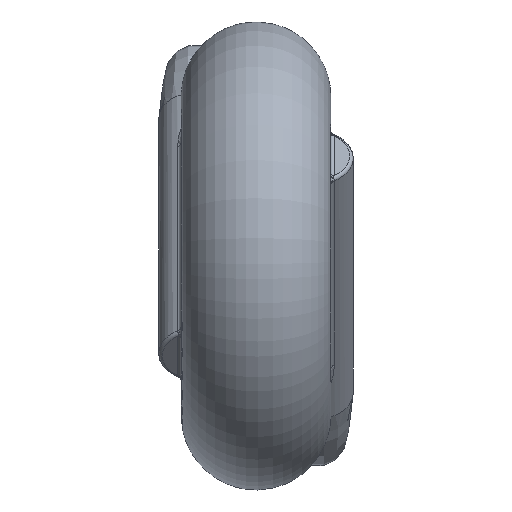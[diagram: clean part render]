
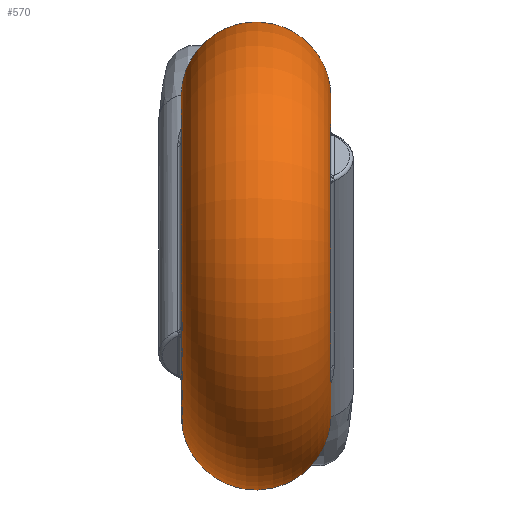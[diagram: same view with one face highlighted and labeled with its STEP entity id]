
A CAD part, left-side view. The second image highlights one B-rep face of the part: STEP entity #570.
In plain terms, the highlighted toroidal (fillet/blend) face has major radius 4.595 mm and minor radius 2.155 mm.
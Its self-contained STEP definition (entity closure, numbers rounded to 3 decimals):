
#20=TOROIDAL_SURFACE('',#632,4.595,2.155);
#81=B_SPLINE_CURVE_WITH_KNOTS('',3,(#1640,#1641,#1642,#1643,#1644,#1645,
#1646,#1647,#1648,#1649,#1650,#1651,#1652,#1653,#1654,#1655),
 .UNSPECIFIED.,.F.,.F.,(4,1,1,1,1,1,1,1,1,1,1,1,1,4),(-0.801,
-0.744,-0.687,-0.572,-0.515,
-0.458,-0.401,-0.343,-0.286,
-0.229,-0.172,-0.114,-0.057,
0.),.UNSPECIFIED.);
#82=B_SPLINE_CURVE_WITH_KNOTS('',3,(#1661,#1662,#1663,#1664,#1665,#1666,
#1667,#1668,#1669,#1670,#1671,#1672,#1673,#1674,#1675,#1676,#1677,#1678),
 .UNSPECIFIED.,.F.,.F.,(4,1,1,1,1,1,1,1,1,1,1,1,1,1,1,4),(-0.801,
-0.744,-0.687,-0.601,-0.572,
-0.515,-0.458,-0.401,-0.343,
-0.329,-0.286,-0.229,-0.172,
-0.114,-0.057,0.),.UNSPECIFIED.);
#97=FACE_BOUND('',#171,.T.);
#129=FACE_OUTER_BOUND('',#170,.T.);
#170=EDGE_LOOP('',(#453,#454));
#171=EDGE_LOOP('',(#455,#456));
#215=CIRCLE('',#633,4.595);
#216=CIRCLE('',#634,4.595);
#259=VERTEX_POINT('',#1555);
#260=VERTEX_POINT('',#1638);
#261=VERTEX_POINT('',#1659);
#262=VERTEX_POINT('',#1660);
#330=EDGE_CURVE('',#260,#259,#81,.T.);
#332=EDGE_CURVE('',#261,#262,#82,.T.);
#333=EDGE_CURVE('',#261,#262,#215,.T.);
#334=EDGE_CURVE('',#260,#259,#216,.T.);
#453=ORIENTED_EDGE('',*,*,#332,.T.);
#454=ORIENTED_EDGE('',*,*,#333,.F.);
#455=ORIENTED_EDGE('',*,*,#330,.T.);
#456=ORIENTED_EDGE('',*,*,#334,.F.);
#570=ADVANCED_FACE('',(#129,#97),#20,.T.);
#632=AXIS2_PLACEMENT_3D('',#1658,#759,#760);
#633=AXIS2_PLACEMENT_3D('',#1679,#761,#762);
#634=AXIS2_PLACEMENT_3D('',#1680,#763,#764);
#759=DIRECTION('center_axis',(0.,1.,0.));
#760=DIRECTION('ref_axis',(1.,0.,0.));
#761=DIRECTION('center_axis',(0.,-1.,0.));
#762=DIRECTION('ref_axis',(-1.,0.,0.));
#763=DIRECTION('center_axis',(0.,1.,0.));
#764=DIRECTION('ref_axis',(-1.,0.,0.));
#1555=CARTESIAN_POINT('',(3.226,3.5,3.273));
#1638=CARTESIAN_POINT('',(4.393,3.5,1.346));
#1640=CARTESIAN_POINT('Ctrl Pts',(4.393,3.5,1.346));
#1641=CARTESIAN_POINT('Ctrl Pts',(4.514,3.5,1.477));
#1642=CARTESIAN_POINT('Ctrl Pts',(4.772,3.465,1.722));
#1643=CARTESIAN_POINT('Ctrl Pts',(5.305,3.244,2.127));
#1644=CARTESIAN_POINT('Ctrl Pts',(5.742,2.788,2.485));
#1645=CARTESIAN_POINT('Ctrl Pts',(5.856,2.259,2.966));
#1646=CARTESIAN_POINT('Ctrl Pts',(5.753,1.929,3.398));
#1647=CARTESIAN_POINT('Ctrl Pts',(5.487,1.768,3.873));
#1648=CARTESIAN_POINT('Ctrl Pts',(5.129,1.841,4.313));
#1649=CARTESIAN_POINT('Ctrl Pts',(4.75,2.146,4.601));
#1650=CARTESIAN_POINT('Ctrl Pts',(4.41,2.576,4.624));
#1651=CARTESIAN_POINT('Ctrl Pts',(4.125,2.972,4.413));
#1652=CARTESIAN_POINT('Ctrl Pts',(3.86,3.271,4.067));
#1653=CARTESIAN_POINT('Ctrl Pts',(3.576,3.457,3.662));
#1654=CARTESIAN_POINT('Ctrl Pts',(3.349,3.5,3.396));
#1655=CARTESIAN_POINT('Ctrl Pts',(3.226,3.5,3.273));
#1658=CARTESIAN_POINT('Origin',(0.,1.345,0.));
#1659=CARTESIAN_POINT('',(4.393,-0.81,-1.346));
#1660=CARTESIAN_POINT('',(3.226,-0.81,-3.273));
#1661=CARTESIAN_POINT('Ctrl Pts',(4.393,-0.81,-1.346));
#1662=CARTESIAN_POINT('Ctrl Pts',(4.514,-0.81,-1.477));
#1663=CARTESIAN_POINT('Ctrl Pts',(4.772,-0.776,-1.721));
#1664=CARTESIAN_POINT('Ctrl Pts',(5.238,-0.581,-2.077));
#1665=CARTESIAN_POINT('Ctrl Pts',(5.578,-0.271,-2.35));
#1666=CARTESIAN_POINT('Ctrl Pts',(5.784,0.102,-2.665));
#1667=CARTESIAN_POINT('Ctrl Pts',(5.856,0.43,-2.965));
#1668=CARTESIAN_POINT('Ctrl Pts',(5.752,0.761,-3.398));
#1669=CARTESIAN_POINT('Ctrl Pts',(5.487,0.922,-3.873));
#1670=CARTESIAN_POINT('Ctrl Pts',(5.218,0.867,-4.203));
#1671=CARTESIAN_POINT('Ctrl Pts',(4.971,0.722,-4.433));
#1672=CARTESIAN_POINT('Ctrl Pts',(4.722,0.507,-4.603));
#1673=CARTESIAN_POINT('Ctrl Pts',(4.41,0.114,-4.624));
#1674=CARTESIAN_POINT('Ctrl Pts',(4.124,-0.283,-4.412));
#1675=CARTESIAN_POINT('Ctrl Pts',(3.86,-0.581,-4.067));
#1676=CARTESIAN_POINT('Ctrl Pts',(3.576,-0.767,-3.662));
#1677=CARTESIAN_POINT('Ctrl Pts',(3.349,-0.81,-3.396));
#1678=CARTESIAN_POINT('Ctrl Pts',(3.226,-0.81,-3.273));
#1679=CARTESIAN_POINT('Origin',(0.,-0.81,0.));
#1680=CARTESIAN_POINT('Origin',(0.,3.5,0.));
